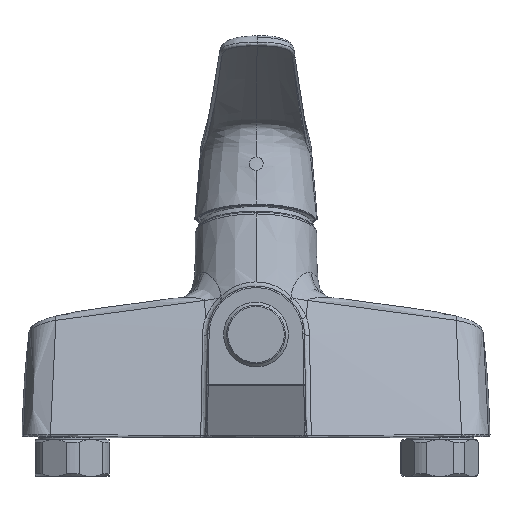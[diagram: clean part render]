
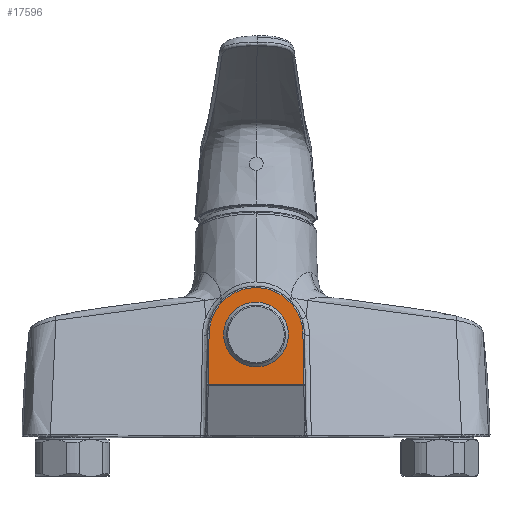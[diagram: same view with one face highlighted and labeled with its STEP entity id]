
A CAD part, front view. The second image highlights one B-rep face of the part: STEP entity #17596.
In plain terms, the highlighted planar face has unit normal (0, -1, 0).
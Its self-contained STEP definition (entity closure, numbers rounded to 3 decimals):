
#109 = CARTESIAN_POINT ( 'NONE',  ( 86.495, 167.588, 329.443 ) ) ;
#626 = CIRCLE ( 'NONE', #13593, 13.221 ) ;
#1631 = VERTEX_POINT ( 'NONE', #13905 ) ;
#1800 = AXIS2_PLACEMENT_3D ( 'NONE', #7828, #10328, #25116 ) ;
#2303 = CIRCLE ( 'NONE', #25587, 13.221 ) ;
#2328 = CARTESIAN_POINT ( 'NONE',  ( 125.155, 167.588, 308.51 ) ) ;
#2373 = EDGE_CURVE ( 'NONE', #25146, #1631, #626, .T. ) ;
#2742 = DIRECTION ( 'NONE',  ( 0., 0., -1. ) ) ;
#2761 = ORIENTED_EDGE ( 'NONE', *, *, #17834, .T. ) ;
#2833 = DIRECTION ( 'NONE',  ( 0., -1., 0. ) ) ;
#2927 = CARTESIAN_POINT ( 'NONE',  ( 105.642, 167.588, 329.108 ) ) ;
#2985 = VERTEX_POINT ( 'NONE', #10528 ) ;
#3099 = CARTESIAN_POINT ( 'NONE',  ( 86.13, 167.588, 308.51 ) ) ;
#3226 = ORIENTED_EDGE ( 'NONE', *, *, #22454, .F. ) ;
#4370 = CARTESIAN_POINT ( 'NONE',  ( 124.143, 167.588, 366.439 ) ) ;
#4420 = ORIENTED_EDGE ( 'NONE', *, *, #20998, .T. ) ;
#4496 = CARTESIAN_POINT ( 'NONE',  ( 105.642, 167.588, 329.108 ) ) ;
#4623 = LINE ( 'NONE', #19711, #21236 ) ;
#6632 = DIRECTION ( 'NONE',  ( 0., 0., -1. ) ) ;
#6672 = FACE_OUTER_BOUND ( 'NONE', #16167, .T. ) ;
#7828 = CARTESIAN_POINT ( 'NONE',  ( 105.642, 167.588, 329.108 ) ) ;
#8191 = PLANE ( 'NONE',  #1800 ) ;
#9379 = CARTESIAN_POINT ( 'NONE',  ( 112.146, 167.588, 308.511 ) ) ;
#9607 = CARTESIAN_POINT ( 'NONE',  ( 100.02, 167.588, 317.143 ) ) ;
#10328 = DIRECTION ( 'NONE',  ( 0., -1., 0. ) ) ;
#10528 = CARTESIAN_POINT ( 'NONE',  ( 86.495, 167.588, 329.443 ) ) ;
#10972 = VECTOR ( 'NONE', #11681, 1000. ) ;
#11681 = DIRECTION ( 'NONE',  ( -0.017, 0., -1. ) ) ;
#11962 = EDGE_CURVE ( 'NONE', #2985, #23179, #15544, .T. ) ;
#12861 = CARTESIAN_POINT ( 'NONE',  ( 87.141, 167.588, 366.439 ) ) ;
#13533 = ORIENTED_EDGE ( 'NONE', *, *, #11962, .F. ) ;
#13593 = AXIS2_PLACEMENT_3D ( 'NONE', #2927, #2833, #2742 ) ;
#13726 = CARTESIAN_POINT ( 'NONE',  ( 125.155, 167.588, 308.51 ) ) ;
#13844 = CARTESIAN_POINT ( 'NONE',  ( 86.495, 167.588, 329.443 ) ) ;
#13905 = CARTESIAN_POINT ( 'NONE',  ( 111.264, 167.588, 341.074 ) ) ;
#13990 = EDGE_CURVE ( 'NONE', #1631, #25146, #2303, .T. ) ;
#15370 = LINE ( 'NONE', #13844, #10972 ) ;
#15442 = ORIENTED_EDGE ( 'NONE', *, *, #2373, .F. ) ;
#15544 =( BOUNDED_CURVE ( )  B_SPLINE_CURVE ( 3, ( #109, #12861, #4370, #19220 ),
 .UNSPECIFIED., .F., .F. ) 
 B_SPLINE_CURVE_WITH_KNOTS ( ( 4, 4 ),
 ( 0., 1. ),
 .UNSPECIFIED. ) 
 CURVE ( )  GEOMETRIC_REPRESENTATION_ITEM ( )  RATIONAL_B_SPLINE_CURVE ( ( 1., 0.345, 0.345, 1. ) ) 
 REPRESENTATION_ITEM ( '' )  );
#15772 = EDGE_LOOP ( 'NONE', ( #15442, #16489 ) ) ;
#15834 = CARTESIAN_POINT ( 'NONE',  ( 99.138, 167.588, 308.511 ) ) ;
#15848 = VERTEX_POINT ( 'NONE', #21262 ) ;
#16033 = VERTEX_POINT ( 'NONE', #2328 ) ;
#16167 = EDGE_LOOP ( 'NONE', ( #2761, #13533, #4420, #3226 ) ) ;
#16489 = ORIENTED_EDGE ( 'NONE', *, *, #13990, .F. ) ;
#17382 = B_SPLINE_CURVE_WITH_KNOTS ( 'NONE', 3,
 ( #13726, #9379, #15834, #3099 ),
 .UNSPECIFIED., .F., .F.,
 ( 4, 4 ),
 ( 0., 1. ),
 .UNSPECIFIED. ) ;
#17596 = ADVANCED_FACE ( 'NONE', ( #22602, #6672 ), #8191, .T. ) ;
#17834 = EDGE_CURVE ( 'NONE', #16033, #23179, #4623, .T. ) ;
#19220 = CARTESIAN_POINT ( 'NONE',  ( 124.789, 167.588, 329.443 ) ) ;
#19363 = DIRECTION ( 'NONE',  ( 0., -1., 0. ) ) ;
#19711 = CARTESIAN_POINT ( 'NONE',  ( 125.155, 167.588, 308.51 ) ) ;
#20998 = EDGE_CURVE ( 'NONE', #2985, #15848, #15370, .T. ) ;
#21236 = VECTOR ( 'NONE', #21831, 1000. ) ;
#21262 = CARTESIAN_POINT ( 'NONE',  ( 86.13, 167.588, 308.51 ) ) ;
#21831 = DIRECTION ( 'NONE',  ( -0.017, 0., 1. ) ) ;
#22164 = CARTESIAN_POINT ( 'NONE',  ( 124.789, 167.588, 329.443 ) ) ;
#22454 = EDGE_CURVE ( 'NONE', #16033, #15848, #17382, .T. ) ;
#22602 = FACE_BOUND ( 'NONE', #15772, .T. ) ;
#23179 = VERTEX_POINT ( 'NONE', #22164 ) ;
#25116 = DIRECTION ( 'NONE',  ( -1., 0., 0. ) ) ;
#25146 = VERTEX_POINT ( 'NONE', #9607 ) ;
#25587 = AXIS2_PLACEMENT_3D ( 'NONE', #4496, #19363, #6632 ) ;
